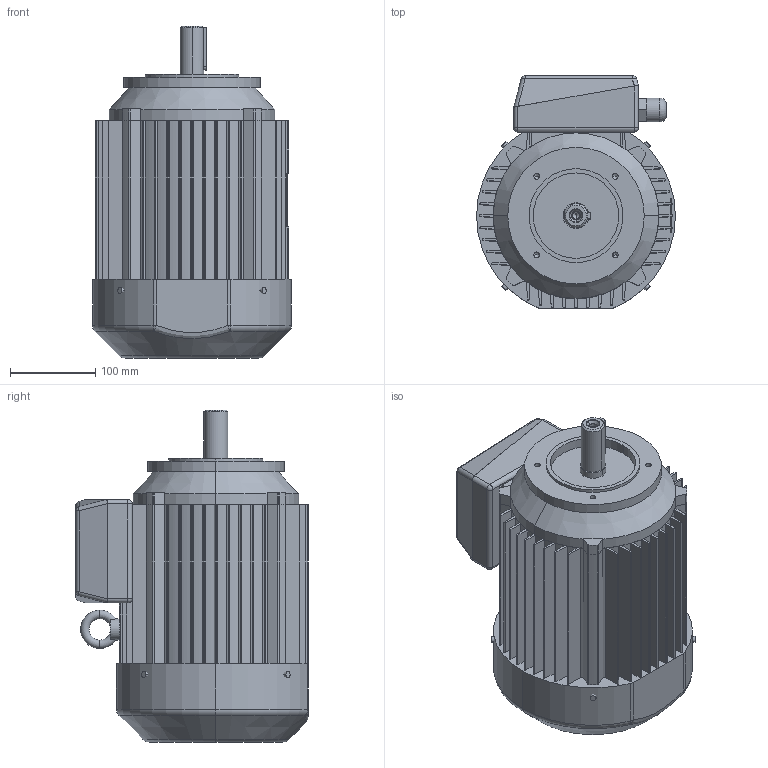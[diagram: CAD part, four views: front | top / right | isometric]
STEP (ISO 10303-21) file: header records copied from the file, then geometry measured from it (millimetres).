
FILE_DESCRIPTION (( 'STEP AP203' ), '1' );
FILE_NAME ('2SIEK112M4-B14-C2.STEP', '2013-01-07T13:16:59', ( 'INDUKTA' ), ( 'CANTONI MOTOR' ), 'SwSTEP 2.0', 'SolidWorks 2003064', '' );
FILE_SCHEMA (( 'CONFIG_CONTROL_DESIGN' ));
Length unit declared in the file: millimetre
Products named in the file (1): 2SIEK112M4-B14-C2
Bounding box: 233 x 272 x 389 mm (x, y, z)
Volume: 11888882.9 mm3; surface area: 710511 mm2
Topology: 12 solids, 12 shells, 434 faces, 1158 edges, 731 vertices
Faces by surface type: cylinder 203, plane 185, cone 22, torus 13, sphere 10, bspline 1
Entity records: 14347 total; most frequent: CARTESIAN_POINT 3339, DIRECTION 2376, ORIENTED_EDGE 2276, EDGE_CURVE 1138, AXIS2_PLACEMENT_3D 855, VERTEX_POINT 731, LINE 666, VECTOR 666
